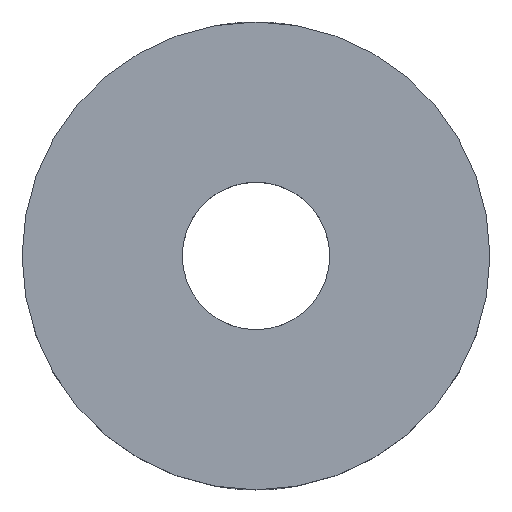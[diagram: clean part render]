
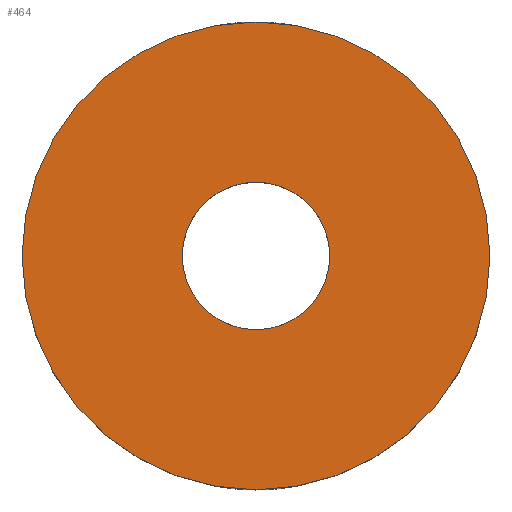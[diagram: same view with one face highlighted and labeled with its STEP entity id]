
A CAD part, top view. The second image highlights one B-rep face of the part: STEP entity #464.
In plain terms, the highlighted planar face has unit normal (0, 0, 1).
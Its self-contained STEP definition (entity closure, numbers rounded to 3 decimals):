
#42 = VERTEX_POINT('',#43);
#43 = CARTESIAN_POINT('',(13.,0.,2.8));
#50 = CYLINDRICAL_SURFACE('',#51,13.);
#51 = AXIS2_PLACEMENT_3D('',#52,#53,#54);
#52 = CARTESIAN_POINT('',(0.,0.,-2.8));
#53 = DIRECTION('',(0.,0.,1.));
#54 = DIRECTION('',(1.,0.,-0.));
#69 = EDGE_CURVE('',#42,#42,#70,.T.);
#70 = SURFACE_CURVE('',#71,(#76,#83),.PCURVE_S1.);
#71 = CIRCLE('',#72,13.);
#72 = AXIS2_PLACEMENT_3D('',#73,#74,#75);
#73 = CARTESIAN_POINT('',(0.,0.,2.8));
#74 = DIRECTION('',(0.,0.,1.));
#75 = DIRECTION('',(1.,0.,-0.));
#76 = PCURVE('',#50,#77);
#77 = DEFINITIONAL_REPRESENTATION('',(#78),#82);
#78 = LINE('',#79,#80);
#79 = CARTESIAN_POINT('',(0.,5.6));
#80 = VECTOR('',#81,1.);
#81 = DIRECTION('',(1.,0.));
#82 = ( GEOMETRIC_REPRESENTATION_CONTEXT(2) 
PARAMETRIC_REPRESENTATION_CONTEXT() REPRESENTATION_CONTEXT('2D SPACE',''
  ) );
#83 = PCURVE('',#84,#89);
#84 = PLANE('',#85);
#85 = AXIS2_PLACEMENT_3D('',#86,#87,#88);
#86 = CARTESIAN_POINT('',(0.,0.,2.8));
#87 = DIRECTION('',(0.,0.,1.));
#88 = DIRECTION('',(1.,0.,-0.));
#89 = DEFINITIONAL_REPRESENTATION('',(#90),#94);
#90 = CIRCLE('',#91,13.);
#91 = AXIS2_PLACEMENT_2D('',#92,#93);
#92 = CARTESIAN_POINT('',(0.,0.));
#93 = DIRECTION('',(1.,0.));
#94 = ( GEOMETRIC_REPRESENTATION_CONTEXT(2) 
PARAMETRIC_REPRESENTATION_CONTEXT() REPRESENTATION_CONTEXT('2D SPACE',''
  ) );
#453 = CYLINDRICAL_SURFACE('',#454,4.1);
#454 = AXIS2_PLACEMENT_3D('',#455,#456,#457);
#455 = CARTESIAN_POINT('',(0.,0.,-3.8));
#456 = DIRECTION('',(0.,0.,1.));
#457 = DIRECTION('',(1.,0.,-0.));
#464 = ADVANCED_FACE('',(#465,#468),#84,.T.);
#465 = FACE_BOUND('',#466,.T.);
#466 = EDGE_LOOP('',(#467));
#467 = ORIENTED_EDGE('',*,*,#69,.T.);
#468 = FACE_BOUND('',#469,.T.);
#469 = EDGE_LOOP('',(#470));
#470 = ORIENTED_EDGE('',*,*,#471,.F.);
#471 = EDGE_CURVE('',#472,#472,#474,.T.);
#472 = VERTEX_POINT('',#473);
#473 = CARTESIAN_POINT('',(4.1,0.,2.8));
#474 = SURFACE_CURVE('',#475,(#480,#487),.PCURVE_S1.);
#475 = CIRCLE('',#476,4.1);
#476 = AXIS2_PLACEMENT_3D('',#477,#478,#479);
#477 = CARTESIAN_POINT('',(0.,0.,2.8));
#478 = DIRECTION('',(0.,0.,1.));
#479 = DIRECTION('',(1.,0.,-0.));
#480 = PCURVE('',#84,#481);
#481 = DEFINITIONAL_REPRESENTATION('',(#482),#486);
#482 = CIRCLE('',#483,4.1);
#483 = AXIS2_PLACEMENT_2D('',#484,#485);
#484 = CARTESIAN_POINT('',(0.,0.));
#485 = DIRECTION('',(1.,0.));
#486 = ( GEOMETRIC_REPRESENTATION_CONTEXT(2) 
PARAMETRIC_REPRESENTATION_CONTEXT() REPRESENTATION_CONTEXT('2D SPACE',''
  ) );
#487 = PCURVE('',#453,#488);
#488 = DEFINITIONAL_REPRESENTATION('',(#489),#493);
#489 = LINE('',#490,#491);
#490 = CARTESIAN_POINT('',(0.,6.6));
#491 = VECTOR('',#492,1.);
#492 = DIRECTION('',(1.,0.));
#493 = ( GEOMETRIC_REPRESENTATION_CONTEXT(2) 
PARAMETRIC_REPRESENTATION_CONTEXT() REPRESENTATION_CONTEXT('2D SPACE',''
  ) );
